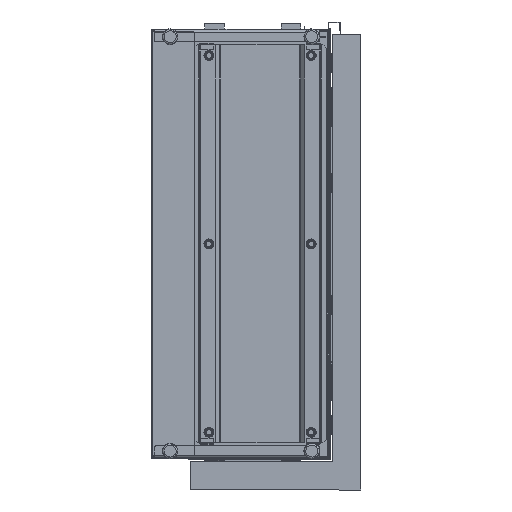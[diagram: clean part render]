
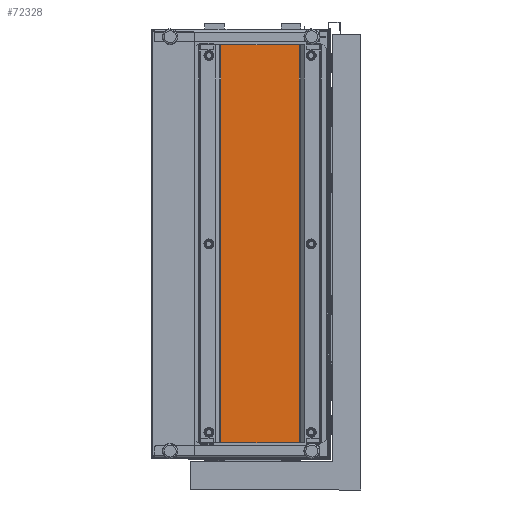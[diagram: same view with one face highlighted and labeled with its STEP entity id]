
A CAD part, front view. The second image highlights one B-rep face of the part: STEP entity #72328.
In plain terms, the highlighted planar face has unit normal (0, -1, 0).
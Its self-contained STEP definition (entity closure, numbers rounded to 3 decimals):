
#1813 = LINE ( 'NONE', #72927, #66668 ) ;
#2845 = CARTESIAN_POINT ( 'NONE',  ( 301.5, -106.87, -505.75 ) ) ;
#5418 = VERTEX_POINT ( 'NONE', #66553 ) ;
#7514 = EDGE_CURVE ( 'Defeatured_21_34+Defeatured_21_19+Defeatured_21_35+Defeatured_21_33', #5418, #61944, #67076, .T. ) ;
#7564 = LINE ( 'NONE', #67137, #39567 ) ;
#7720 = CARTESIAN_POINT ( 'NONE',  ( 300.672, -106.87, -505.75 ) ) ;
#7891 = DIRECTION ( 'NONE',  ( 1., 0., 0. ) ) ;
#13611 = VECTOR ( 'NONE', #18206, 1000. ) ;
#15899 = DIRECTION ( 'NONE',  ( -1., 0., 0. ) ) ;
#16676 = FACE_OUTER_BOUND ( 'NONE', #63625, .T. ) ;
#17227 = VERTEX_POINT ( 'NONE', #17617 ) ;
#17617 = CARTESIAN_POINT ( 'NONE',  ( 100.328, -106.87, 505.75 ) ) ;
#17846 = LINE ( 'NONE', #41305, #13611 ) ;
#18206 = DIRECTION ( 'NONE',  ( 1., 0., 0. ) ) ;
#21644 = PLANE ( 'NONE',  #68821 ) ;
#22730 = ORIENTED_EDGE ( 'NONE', *, *, #7514, .T. ) ;
#27040 = DIRECTION ( 'NONE',  ( 0., -1., 0. ) ) ;
#27667 = VERTEX_POINT ( 'NONE', #64585 ) ;
#27842 = ORIENTED_EDGE ( 'NONE', *, *, #72442, .F. ) ;
#31023 = DIRECTION ( 'NONE',  ( 0., 0., 1. ) ) ;
#32336 = ORIENTED_EDGE ( 'NONE', *, *, #34605, .T. ) ;
#33328 = EDGE_CURVE ( 'Defeatured_21_35+Defeatured_21_34+Defeatured_21_18+Defeatured_21_20', #5418, #17227, #7564, .T. ) ;
#34605 = EDGE_CURVE ( 'Defeatured_21_34+Defeatured_21_33+Defeatured_21_19+Defeatured_21_25', #61944, #27667, #1813, .T. ) ;
#37119 = VECTOR ( 'NONE', #7891, 1000. ) ;
#39567 = VECTOR ( 'NONE', #31023, 1000. ) ;
#41305 = CARTESIAN_POINT ( 'NONE',  ( 301.5, -106.87, 505.75 ) ) ;
#45120 = CARTESIAN_POINT ( 'NONE',  ( 301.5, -106.87, -505.75 ) ) ;
#61944 = VERTEX_POINT ( 'NONE', #7720 ) ;
#63625 = EDGE_LOOP ( 'NONE', ( #27842, #64991, #22730, #32336 ) ) ;
#64585 = CARTESIAN_POINT ( 'NONE',  ( 300.672, -106.87, 505.75 ) ) ;
#64991 = ORIENTED_EDGE ( 'NONE', *, *, #33328, .F. ) ;
#66553 = CARTESIAN_POINT ( 'NONE',  ( 100.328, -106.87, -505.75 ) ) ;
#66668 = VECTOR ( 'NONE', #73288, 1000. ) ;
#67076 = LINE ( 'NONE', #2845, #37119 ) ;
#67137 = CARTESIAN_POINT ( 'NONE',  ( 100.328, -106.87, -505.75 ) ) ;
#68821 = AXIS2_PLACEMENT_3D ( 'NONE', #45120, #27040, #15899 ) ;
#72328 = ADVANCED_FACE ( 'Defeatured_21_34', ( #16676 ), #21644, .T. ) ;
#72442 = EDGE_CURVE ( 'Defeatured_21_25+Defeatured_21_34+Defeatured_21_20+Defeatured_21_24', #17227, #27667, #17846, .T. ) ;
#72927 = CARTESIAN_POINT ( 'NONE',  ( 300.672, -106.87, -505.75 ) ) ;
#73288 = DIRECTION ( 'NONE',  ( 0., 0., 1. ) ) ;
